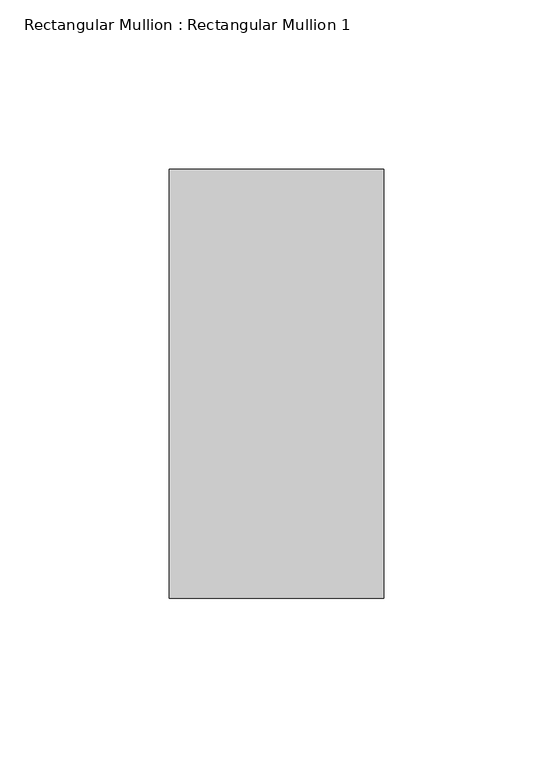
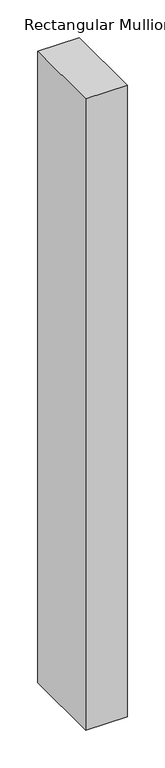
"""IFC4 building model written with IfcOpenShell, lengths in millimetres: member geometry, Rectangular Mullion : Rectangular Mullion 1."""

from ifc_helpers import new_model, si_unit, frame, origin, place, context, project, spatial, polyline, outline, extrude, source, transform, mapped, element, save


def rectangular_mullion_rectangular_mullion_1_51e130ae(model_context):
    return source(origin(), model_context, "Body", "SweptSolid", [
        extrude(outline(polyline([(0.0, 63.5), (0.0, -63.5), (-63.5, -63.5), (-63.5, 63.5), (0.0, 63.5)])), frame((0.0, 0.0, -1022.3449385), z_axis=(0.0, 0.0, 1.0), x_axis=(1.0, 0.0, 0.0)), (0.0, 0.0, 1.0), 1022.3449385),
    ])


if __name__ == "__main__":
    model = new_model("IFC4")
    model_context = context("Model", 3, world=origin())
    ifc_project = project(units=[si_unit("LENGTHUNIT", "METRE", prefix="MILLI")], contexts=[model_context])
    site = spatial("IfcSite", under=ifc_project)
    building = spatial("IfcBuilding", under=site)
    placement = place(None, origin())
    rectangular_mullion_rectangular_mullion_1_shape = rectangular_mullion_rectangular_mullion_1_51e130ae(model_context)
    element("IfcMember", 1, ObjectType="Rectangular Mullion : Rectangular Mullion 1", at=placement, inside=building, context=model_context, shape_type="MappedRepresentation", body=[
        mapped(rectangular_mullion_rectangular_mullion_1_shape, transform((0.0, 0.0, 0.0), x_axis=(1.0, 0.0, 0.0), y_axis=(0.0, 1.0, 0.0), z_axis=(0.0, 0.0, 1.0))),
    ])
    save(model, "model.ifc")
